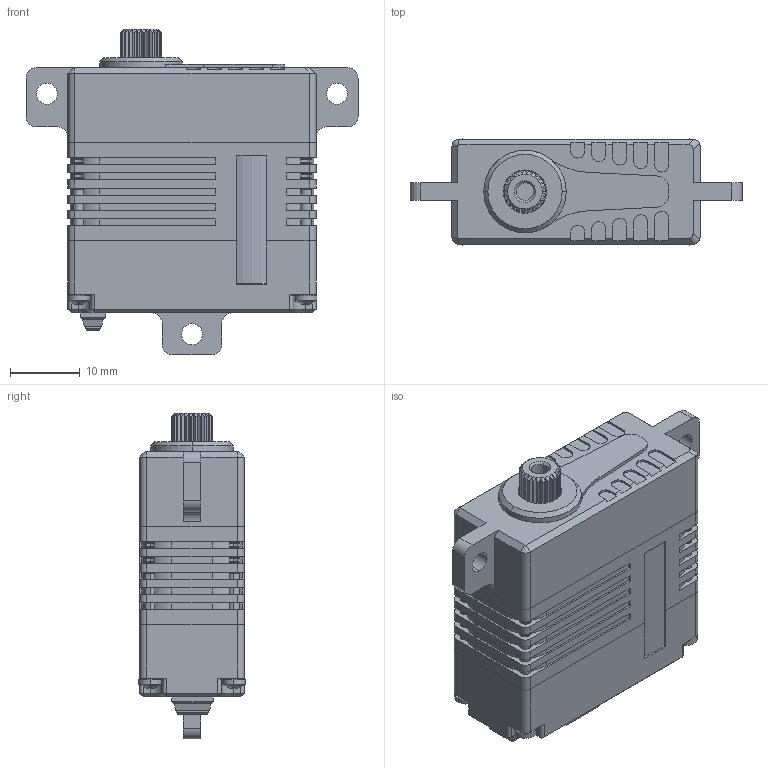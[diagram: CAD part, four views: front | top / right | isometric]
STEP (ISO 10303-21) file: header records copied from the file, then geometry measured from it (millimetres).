
FILE_DESCRIPTION (( 'STEP AP214' ), '1' );
FILE_NAME ('X15-1809A_DM_20250725.STEP', '2025-07-25T09:47:32', ( '' ), ( '' ), 'SwSTEP 2.0', 'SolidWorks 2016', '' );
FILE_SCHEMA (( 'AUTOMOTIVE_DESIGN' ));
Length unit declared in the file: millimetre
Products named in the file (1): X15-1809A_DM_20250725
Bounding box: 47.5 x 15.2 x 46.59 mm (x, y, z)
Surface area: 7756.9 mm2 (no closed solid volume)
Topology: 0 solids, 58 shells, 694 faces, 2116 edges, 1387 vertices
Faces by surface type: plane 319, cylinder 255, cone 112, sphere 8
Entity records: 31427 total; most frequent: CARTESIAN_POINT 4576, DIRECTION 4211, ORIENTED_EDGE 3842, EDGE_CURVE 2108, AXIS2_PLACEMENT_3D 1522, VERTEX_POINT 1387, VECTOR 1167, LINE 1167
